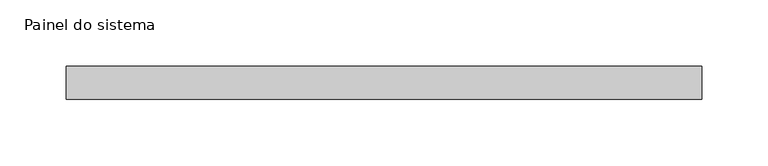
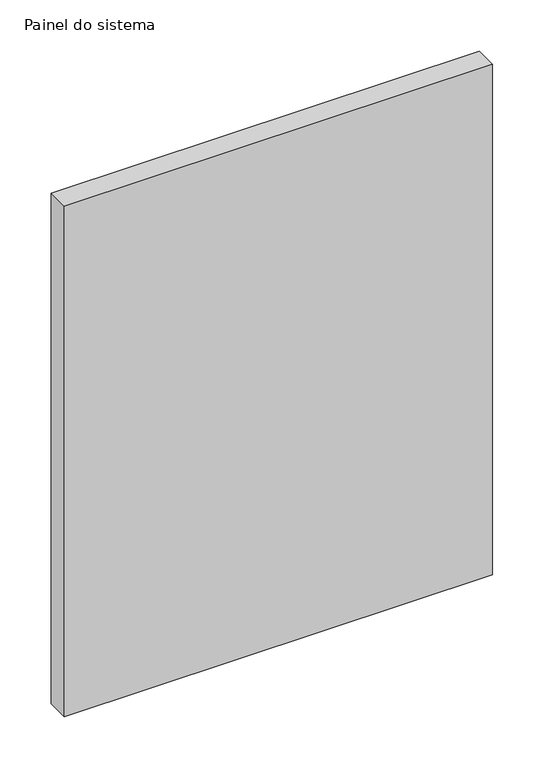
"""IFC4 building model written with IfcOpenShell, lengths in millimetres: plate geometry, Painel do sistema : Envidraçado."""

from ifc_helpers import new_model, si_unit, origin, origin_with_axes, place, context, project, spatial, polyline, outline, extrude, source, transform, mapped, element, save


def painel_do_sistema_f6a48915(model_context):
    return source(origin(), model_context, "Body", "SweptSolid", [
        extrude(outline(polyline([(240.0, 24.5), (-240.0, 24.5), (-240.0, 49.5), (240.0, 49.5), (240.0, 24.5)])), origin_with_axes(), (0.0, 0.0, 1.0), 605.0),
    ])


if __name__ == "__main__":
    model = new_model("IFC4")
    model_context = context("Model", 3, world=origin())
    ifc_project = project(units=[si_unit("LENGTHUNIT", "METRE", prefix="MILLI")], contexts=[model_context])
    site = spatial("IfcSite", under=ifc_project)
    building = spatial("IfcBuilding", under=site)
    placement = place(None, origin())
    painel_do_sistema_shape = painel_do_sistema_f6a48915(model_context)
    element("IfcPlate", 1, ObjectType="Painel do sistema : Envidraçado", at=placement, inside=building, context=model_context, shape_type="MappedRepresentation", body=[
        mapped(painel_do_sistema_shape, transform((0.0, 0.0, 0.0), x_axis=(1.0, 0.0, 0.0), y_axis=(0.0, 1.0, 0.0), z_axis=(0.0, 0.0, 1.0))),
    ])
    save(model, "model.ifc")
